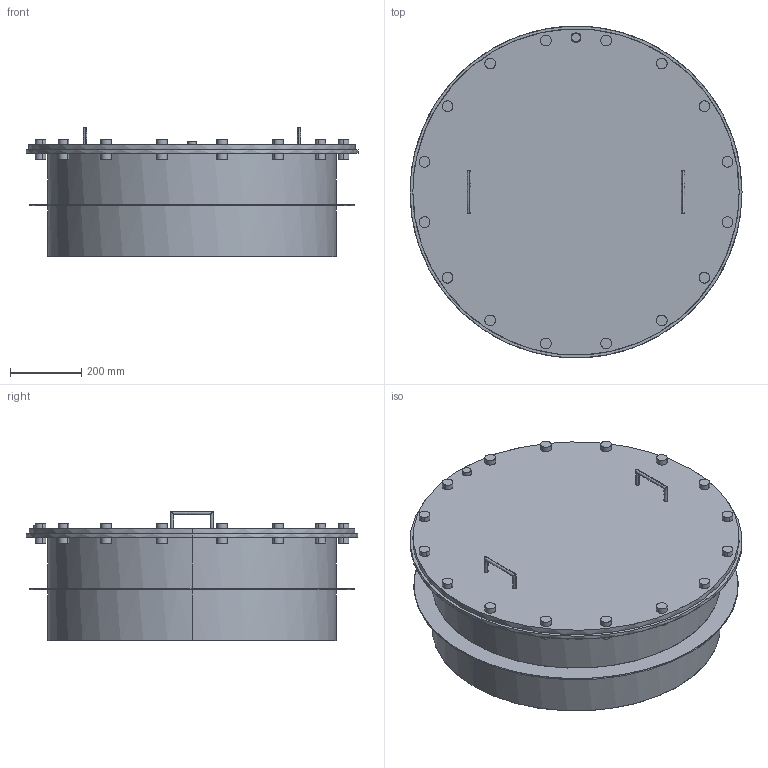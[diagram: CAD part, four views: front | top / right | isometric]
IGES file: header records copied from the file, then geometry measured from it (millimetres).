
Start section:  PTC IGES file: 51792190.igs
Global section: file name: 51792190.igs; native system: Creo Parametric by PTC Inc.; preprocessor: 2021304; author: ka; organization: Unknown; date: 20220303.113627; units: millimetre
Bounding box: 931 x 930.34 x 364 mm (x, y, z)
Surface area: 3265706 mm2 (no closed solid volume)
Topology: 0 solids, 0 shells, 133 faces, 552 edges, 552 vertices
Faces by surface type: revolution 92, bspline 41
